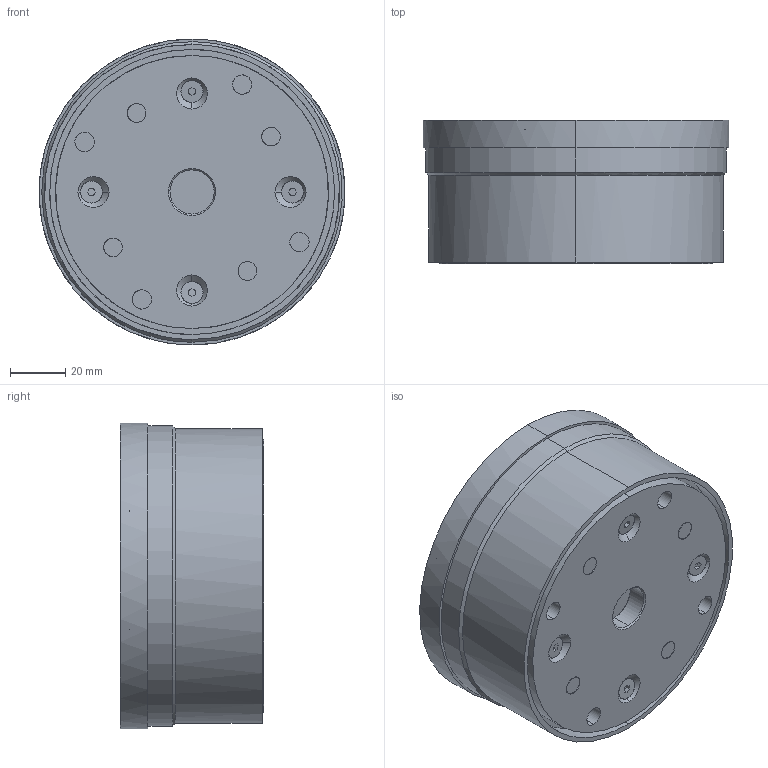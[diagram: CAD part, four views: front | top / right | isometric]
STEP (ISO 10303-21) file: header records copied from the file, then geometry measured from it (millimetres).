
FILE_DESCRIPTION (( 'STEP AP203' ), '1' );
FILE_NAME ('SMT-BS-130-99.STEP', '2023-04-10T02:23:28', ( '' ), ( '' ), 'SwSTEP 2.0', 'SolidWorks 2020', '' );
FILE_SCHEMA (( 'CONFIG_CONTROL_DESIGN' ));
Length unit declared in the file: millimetre
Products named in the file (1): SMT-BS-130-99
Bounding box: 110.93 x 52 x 111 mm (x, y, z)
Volume: 465179.1 mm3; surface area: 47156.5 mm2
Topology: 21 solids, 21 shells, 467 faces, 1007 edges, 607 vertices
Faces by surface type: bspline 467
Entity records: 17011 total; most frequent: CARTESIAN_POINT 10889, ORIENTED_EDGE 1966, EDGE_CURVE 983, B_SPLINE_CURVE_WITH_KNOTS 696, VERTEX_POINT 607, EDGE_LOOP 540, FACE_OUTER_BOUND 467, ADVANCED_FACE 467
